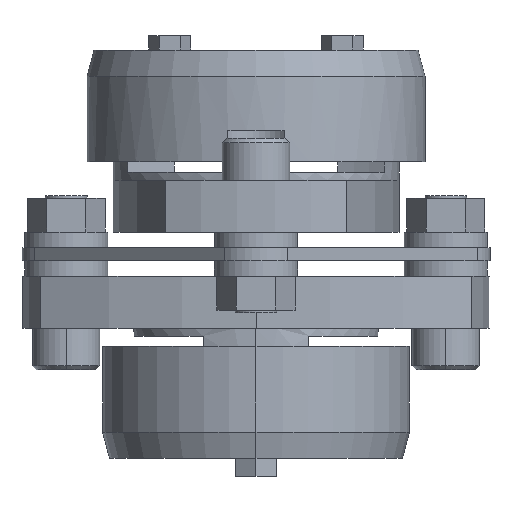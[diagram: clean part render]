
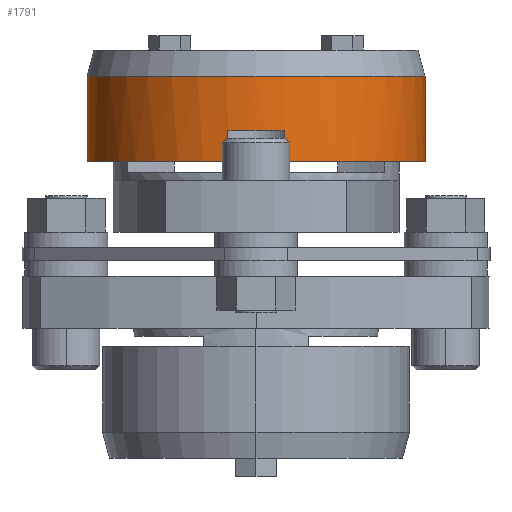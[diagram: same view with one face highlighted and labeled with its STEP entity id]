
A CAD part, front view. The second image highlights one B-rep face of the part: STEP entity #1791.
In plain terms, the highlighted cylindrical face has radius 32.5 mm (diameter 65 mm), a partial arc.
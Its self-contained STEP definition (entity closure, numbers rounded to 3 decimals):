
#1619=CARTESIAN_POINT('',(32.5,0.,34.25));
#1620=VERTEX_POINT('',#1619);
#1636=CARTESIAN_POINT('',(-32.5,0.,34.25));
#1637=VERTEX_POINT('',#1636);
#1644=CARTESIAN_POINT('',(0.,0.,34.25));
#1645=DIRECTION('',(0.0,0.0,1.0));
#1646=DIRECTION('',(1.0,0.0,0.0));
#1647=AXIS2_PLACEMENT_3D('',#1644,#1645,#1646);
#1648=CIRCLE('',#1647,32.5);
#1649=EDGE_CURVE('',#1637,#1620,#1648,.T.);
#1726=CARTESIAN_POINT('',(0.,0.,17.75));
#1727=DIRECTION('',(0.0,0.0,1.0));
#1728=DIRECTION('',(-1.0,0.0,0.0));
#1729=AXIS2_PLACEMENT_3D('',#1726,#1727,#1728);
#1730=CYLINDRICAL_SURFACE('',#1729,32.5);
#1731=CARTESIAN_POINT('',(-32.5,0.,17.75));
#1732=VERTEX_POINT('',#1731);
#1733=CARTESIAN_POINT('',(-32.5,0.,17.75));
#1734=DIRECTION('',(0.0,0.0,1.0));
#1735=VECTOR('',#1734,16.5);
#1736=LINE('',#1733,#1735);
#1737=EDGE_CURVE('',#1732,#1637,#1736,.T.);
#1738=ORIENTED_EDGE('',*,*,#1737,.F.);
#1739=CARTESIAN_POINT('',(-5.402,-32.048,17.75));
#1740=VERTEX_POINT('',#1739);
#1741=CARTESIAN_POINT('',(0.,0.,17.75));
#1742=DIRECTION('',(0.0,0.0,1.0));
#1743=DIRECTION('',(-1.0,0.0,0.0));
#1744=AXIS2_PLACEMENT_3D('',#1741,#1742,#1743);
#1745=CIRCLE('',#1744,32.5);
#1746=EDGE_CURVE('',#1732,#1740,#1745,.T.);
#1747=ORIENTED_EDGE('',*,*,#1746,.T.);
#1748=CARTESIAN_POINT('',(-5.402,-32.048,23.75));
#1749=VERTEX_POINT('',#1748);
#1750=CARTESIAN_POINT('',(-5.402,-32.048,17.75));
#1751=DIRECTION('',(0.0,0.0,1.0));
#1752=VECTOR('',#1751,6.0);
#1753=LINE('',#1750,#1752);
#1754=EDGE_CURVE('',#1740,#1749,#1753,.T.);
#1755=ORIENTED_EDGE('',*,*,#1754,.T.);
#1756=CARTESIAN_POINT('',(5.402,-32.048,23.75));
#1757=VERTEX_POINT('',#1756);
#1758=CARTESIAN_POINT('',(0.,0.,23.75));
#1759=DIRECTION('',(0.0,0.0,1.0));
#1760=DIRECTION('',(-1.0,0.0,0.0));
#1761=AXIS2_PLACEMENT_3D('',#1758,#1759,#1760);
#1762=CIRCLE('',#1761,32.5);
#1763=EDGE_CURVE('',#1749,#1757,#1762,.T.);
#1764=ORIENTED_EDGE('',*,*,#1763,.T.);
#1765=CARTESIAN_POINT('',(5.402,-32.048,17.75));
#1766=VERTEX_POINT('',#1765);
#1767=CARTESIAN_POINT('',(5.402,-32.048,23.75));
#1768=DIRECTION('',(0.0,0.0,-1.0));
#1769=VECTOR('',#1768,6.0);
#1770=LINE('',#1767,#1769);
#1771=EDGE_CURVE('',#1757,#1766,#1770,.T.);
#1772=ORIENTED_EDGE('',*,*,#1771,.T.);
#1773=CARTESIAN_POINT('',(32.5,0.,17.75));
#1774=VERTEX_POINT('',#1773);
#1775=CARTESIAN_POINT('',(0.,0.,17.75));
#1776=DIRECTION('',(0.0,0.0,1.0));
#1777=DIRECTION('',(-1.0,0.0,0.0));
#1778=AXIS2_PLACEMENT_3D('',#1775,#1776,#1777);
#1779=CIRCLE('',#1778,32.5);
#1780=EDGE_CURVE('',#1766,#1774,#1779,.T.);
#1781=ORIENTED_EDGE('',*,*,#1780,.T.);
#1782=CARTESIAN_POINT('',(32.5,0.,34.25));
#1783=DIRECTION('',(0.0,0.0,-1.0));
#1784=VECTOR('',#1783,16.5);
#1785=LINE('',#1782,#1784);
#1786=EDGE_CURVE('',#1620,#1774,#1785,.T.);
#1787=ORIENTED_EDGE('',*,*,#1786,.F.);
#1788=ORIENTED_EDGE('',*,*,#1649,.F.);
#1789=EDGE_LOOP('',(#1738,#1747,#1755,#1764,#1772,#1781,#1787,#1788));
#1790=FACE_OUTER_BOUND('',#1789,.T.);
#1791=ADVANCED_FACE('',(#1790),#1730,.T.);
